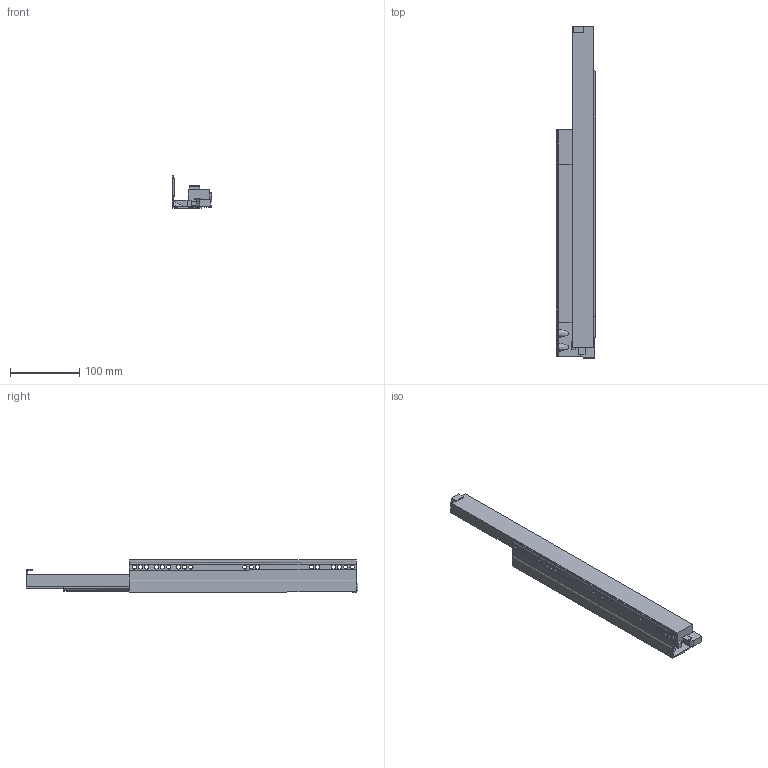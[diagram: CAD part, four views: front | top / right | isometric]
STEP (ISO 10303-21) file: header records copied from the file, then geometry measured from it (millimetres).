
FILE_DESCRIPTION (( 'STEP AP214' ), '1' );
FILE_NAME ('_IMOS_Dynapro_Softclose_D514_NL_480_LI.step', '2010-07-16T06:01:11', ( 'grass' ), ( '' ), 'SwSTEP 2.0', 'SolidWorks 2009', '' );
FILE_SCHEMA (( 'AUTOMOTIVE_DESIGN' ));
Length unit declared in the file: millimetre
Products named in the file (1): _IMOS_Dynapro_Softclose_D514_NL_480_LI
Bounding box: 57.08 x 480.07 x 47.86 mm (x, y, z)
Volume: 414001.6 mm3; surface area: 133038.9 mm2
Topology: 1 solids, 1 shells, 120 faces, 409 edges, 287 vertices
Faces by surface type: plane 77, cylinder 36, bspline 7
Entity records: 5269 total; most frequent: CARTESIAN_POINT 1531, ORIENTED_EDGE 810, DIRECTION 723, EDGE_CURVE 405, LINE 309, VECTOR 309, VERTEX_POINT 287, AXIS2_PLACEMENT_3D 207
